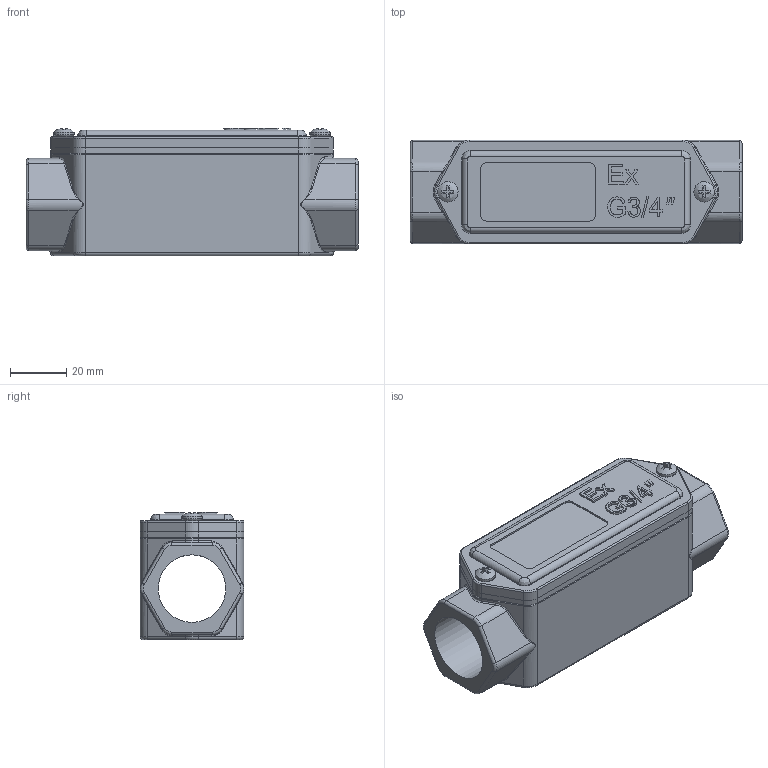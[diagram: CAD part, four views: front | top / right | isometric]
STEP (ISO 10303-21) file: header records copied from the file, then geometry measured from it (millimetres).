
FILE_DESCRIPTION((''),'2;1');
FILE_NAME('C:\Users\A.V.Nesterov\Desktop\111\3D\ТЗ\ТЗ 106632\СКВЕ-П2_3D.stp','2024-06-11T14:54:25',('A.V.Nesterov'),(''),'Autodesk Inventor 2012','Autodesk Inventor 2012','');
FILE_SCHEMA(('AUTOMOTIVE_DESIGN { 1 0 10303 214 1 1 1 1 }'));
Length unit declared in the file: millimetre
Products named in the file (1): СКВЕ-П2_3D
Bounding box: 118.5 x 37 x 45.5 mm (x, y, z)
Surface area: 43855.5 mm2 (no closed solid volume)
Topology: 0 solids, 5 shells, 389 faces, 979 edges, 614 vertices
Faces by surface type: plane 178, cylinder 118, bspline 51, torus 40, cone 2
Full cylindrical faces by diameter (mm): 3.242 x2, 3.9 x2, 4.5 x4, 7.3 x2, 24.117 x2
Entity records: 12953 total; most frequent: CARTESIAN_POINT 3422, ORIENTED_EDGE 1894, DIRECTION 1841, EDGE_CURVE 947, AXIS2_PLACEMENT_3D 647, VERTEX_POINT 602, VECTOR 547, LINE 547
